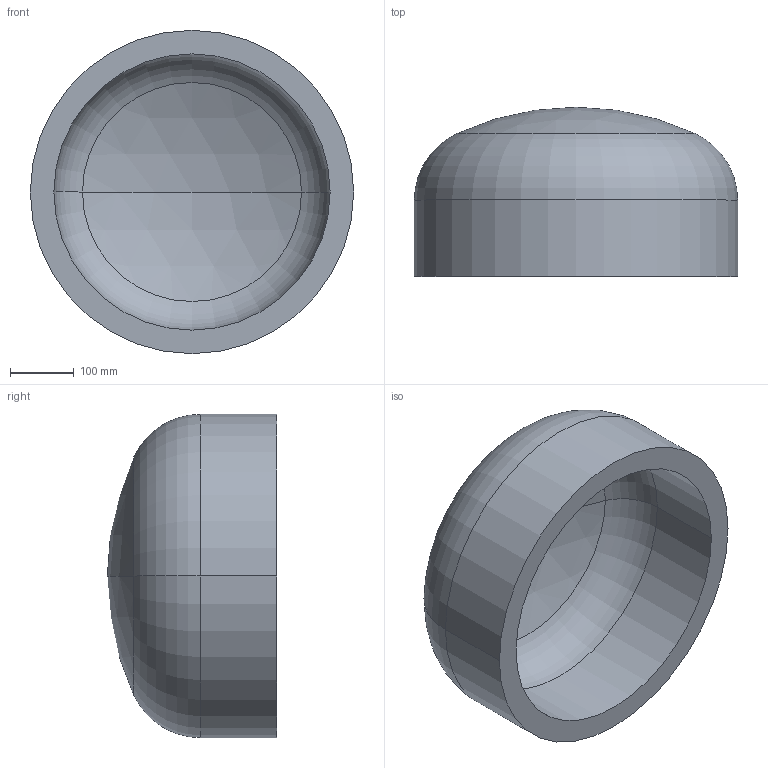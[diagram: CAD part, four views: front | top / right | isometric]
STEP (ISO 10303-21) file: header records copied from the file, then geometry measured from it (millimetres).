
FILE_DESCRIPTION (( 'STEP AP203' ), '1' );
FILE_NAME ('DIN 28013 Korbbogenform_-_Boden DIN 28013 - 508 x 120 - I - s=37.step', '2016-07-01T07:54:26', ( '' ), ( '' ), 'SwSTEP 2.0', 'SolidWorks 2013', '' );
FILE_SCHEMA (( 'CONFIG_CONTROL_DESIGN' ));
Length unit declared in the file: millimetre
Products named in the file (1): DIN 28013 Korbbogenform_-_Boden DIN 28013 - 508 x 120 - I - s=37
Bounding box: 508 x 265.91 x 508 mm (x, y, z)
Volume: 16038622 mm3; surface area: 924568.2 mm2
Topology: 1 solids, 1 shells, 13 faces, 24 edges, 14 vertices
Faces by surface type: torus 4, cylinder 4, sphere 4, plane 1
Entity records: 407 total; most frequent: DIRECTION 72, CARTESIAN_POINT 52, ORIENTED_EDGE 48, AXIS2_PLACEMENT_3D 34, EDGE_CURVE 24, CIRCLE 20, VERTEX_POINT 14, EDGE_LOOP 14
